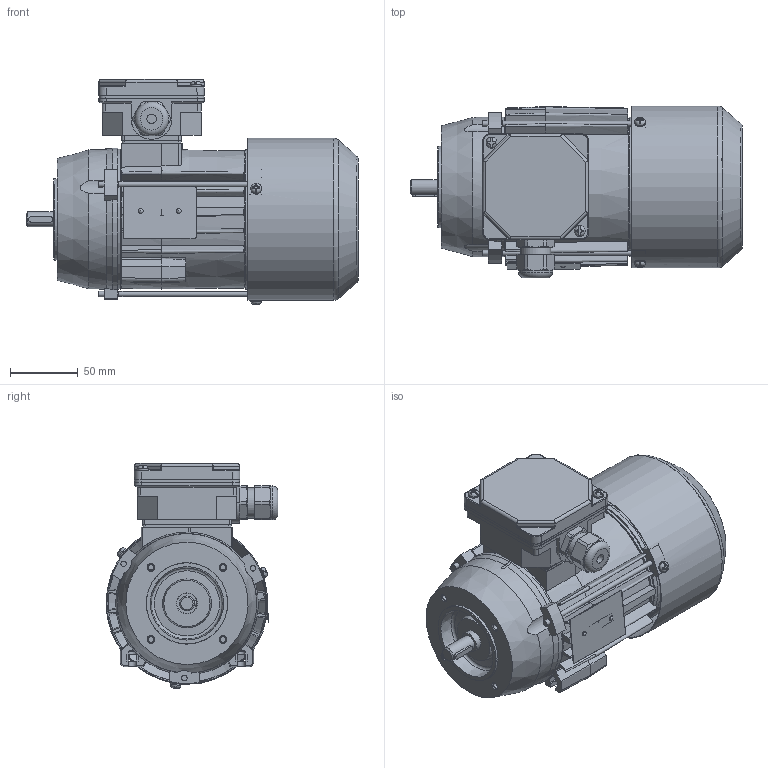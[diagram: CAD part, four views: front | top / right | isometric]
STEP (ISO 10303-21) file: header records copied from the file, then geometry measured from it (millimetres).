
FILE_DESCRIPTION(/* description */ ('Unknown'),/* implementation_level */ '2;1');
FILE_NAME(/* name */ '3SIEK63-6B2',/* time_stamp */ '2021-02-01T14:38:44+01:00',/* author */ ('Unknown'),/* organization */ ('Unknown'),/* preprocessor_version */ 'ST-DEVELOPER v16.7',/* originating_system */ 'Solid Edge',/* authorisation */ 'Unknown');
FILE_SCHEMA (('AUTOMOTIVE_DESIGN {1 0 10303 214 3 1 1}'));
Length unit declared in the file: millimetre
Products named in the file (1): 3SIEK63-6B2
Bounding box: 244.47 x 126.6 x 165.7 mm (x, y, z)
Volume: 539217.3 mm3; surface area: 337123 mm2
Topology: 1 solids, 1 shells, 1763 faces, 5033 edges, 3284 vertices
Faces by surface type: plane 895, cylinder 514, cone 126, torus 118, bspline 89, sphere 21
Full cylindrical faces by diameter (mm): 2 x1, 2.4 x2, 3.7 x7, 3.8 x1, 4 x8, 4.134 x4, 4.5 x3, 4.8 x2, 5 x2, 7 x4, 8 x6, 10.998 x1, 12.897 x1, 13.097 x1, 14.997 x2, 15.4 x2, 18.996 x2, 19.496 x1, 19.996 x1, 20.096 x1, 21.516 x4, 22.3 x1, 25 x1, 28 x2, 28.48 x4, 31 x2, 35 x3, 60 x1, 71.986 x1, 99 x2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
Entity records: 72434 total; most frequent: CARTESIAN_POINT 16201, ORIENTED_EDGE 9444, DIRECTION 8628, EDGE_CURVE 4722, AXIS2_PLACEMENT_3D 3191, VERTEX_POINT 3172, LINE 2246, VECTOR 2246
